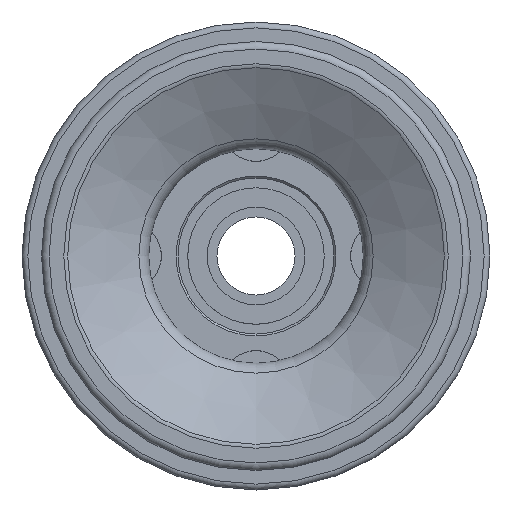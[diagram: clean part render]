
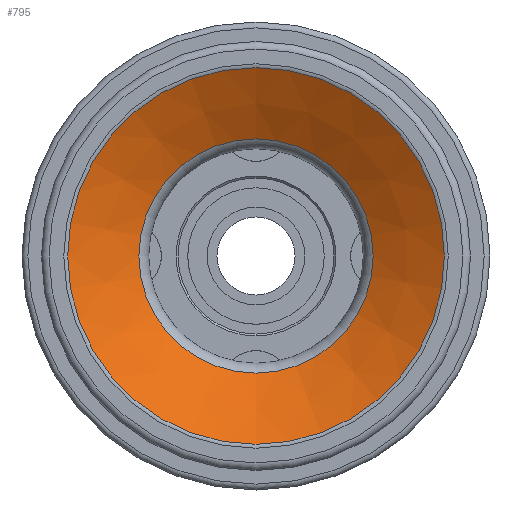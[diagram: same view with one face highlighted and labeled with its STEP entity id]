
A CAD part, front view. The second image highlights one B-rep face of the part: STEP entity #795.
In plain terms, the highlighted conical face has half-angle 60.358 degrees and reference radius 6.005 mm.
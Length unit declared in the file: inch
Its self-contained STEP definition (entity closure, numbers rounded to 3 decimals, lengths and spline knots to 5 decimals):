
#81 = CIRCLE ( 'NONE', #1429, 0.38024 ) ;
#297 = CARTESIAN_POINT ( 'NONE',  ( 36.72742, 38.17365, 0. ) ) ;
#412 = ORIENTED_EDGE ( 'NONE', *, *, #2156, .T. ) ;
#446 = VERTEX_POINT ( 'NONE', #1200 ) ;
#449 = DIRECTION ( 'NONE',  ( 0., -1., 0. ) ) ;
#476 = DIRECTION ( 'NONE',  ( 0., -1., 0. ) ) ;
#481 = DIRECTION ( 'NONE',  ( 0., 0., -1. ) ) ;
#513 = CARTESIAN_POINT ( 'NONE',  ( 36.72742, 38.17365, 0. ) ) ;
#697 = CARTESIAN_POINT ( 'NONE',  ( 36.72742, 38.09182, -0.38024 ) ) ;
#739 = DIRECTION ( 'NONE',  ( 0., 0., -1. ) ) ;
#795 = ADVANCED_FACE ( 'NONE', ( #936, #1938 ), #898, .F. ) ;
#875 = DIRECTION ( 'NONE',  ( 0., -1., 0. ) ) ;
#898 = CONICAL_SURFACE ( 'NONE', #2253, 0.23643, 1.053 ) ;
#936 = FACE_OUTER_BOUND ( 'NONE', #1028, .T. ) ;
#1017 = ORIENTED_EDGE ( 'NONE', *, *, #1051, .F. ) ;
#1028 = EDGE_LOOP ( 'NONE', ( #412 ) ) ;
#1051 = EDGE_CURVE ( 'NONE', #446, #446, #1073, .T. ) ;
#1073 = CIRCLE ( 'NONE', #2357, 0.23643 ) ;
#1200 = CARTESIAN_POINT ( 'NONE',  ( 36.72742, 38.17365, -0.23643 ) ) ;
#1244 = VERTEX_POINT ( 'NONE', #697 ) ;
#1429 = AXIS2_PLACEMENT_3D ( 'NONE', #2117, #449, #481 ) ;
#1535 = EDGE_LOOP ( 'NONE', ( #1017 ) ) ;
#1578 = DIRECTION ( 'NONE',  ( 0., 0., -1. ) ) ;
#1938 = FACE_BOUND ( 'NONE', #1535, .T. ) ;
#2117 = CARTESIAN_POINT ( 'NONE',  ( 36.72742, 38.09182, 0. ) ) ;
#2156 = EDGE_CURVE ( 'NONE', #1244, #1244, #81, .T. ) ;
#2253 = AXIS2_PLACEMENT_3D ( 'NONE', #297, #476, #1578 ) ;
#2357 = AXIS2_PLACEMENT_3D ( 'NONE', #513, #875, #739 ) ;
